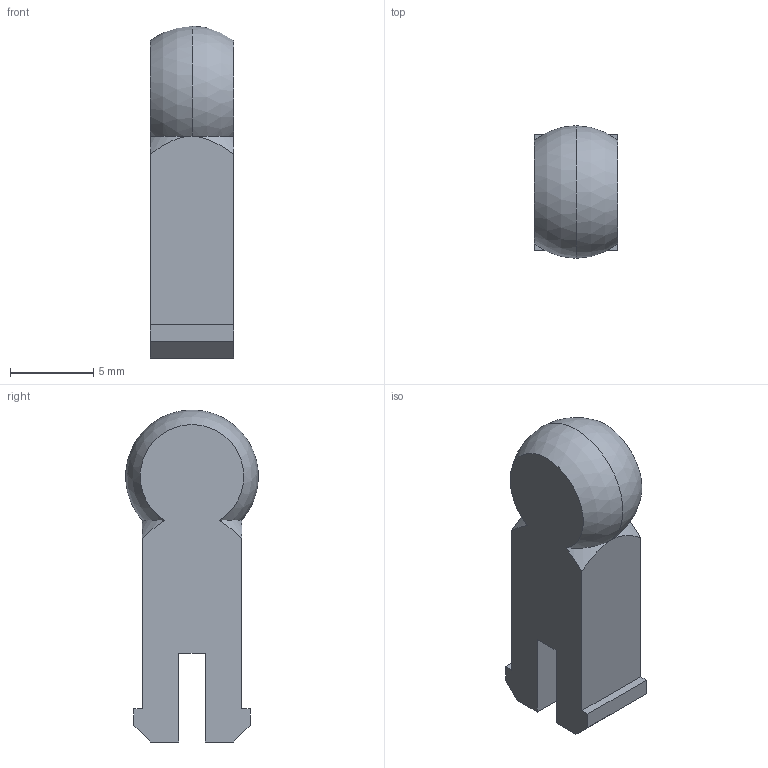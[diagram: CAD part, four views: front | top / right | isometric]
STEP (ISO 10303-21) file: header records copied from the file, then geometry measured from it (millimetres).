
FILE_DESCRIPTION (( 'STEP AP214' ), '1' );
FILE_NAME ('B1-pin-shoulder.step', '2023-08-03T13:47:58', ( '' ), ( '' ), 'SwSTEP 2.0', 'SolidWorks 2020', '' );
FILE_SCHEMA (( 'AUTOMOTIVE_DESIGN' ));
Length unit declared in the file: millimetre
Products named in the file (1): B1-pin-shoulder
Bounding box: 5 x 7.98 x 20 mm (x, y, z)
Volume: 560.1 mm3; surface area: 519.9 mm2
Topology: 1 solids, 1 shells, 21 faces, 54 edges, 35 vertices
Faces by surface type: plane 15, cone 4, sphere 2
Entity records: 702 total; most frequent: CARTESIAN_POINT 163, ORIENTED_EDGE 108, DIRECTION 98, EDGE_CURVE 54, LINE 38, VECTOR 38, VERTEX_POINT 35, AXIS2_PLACEMENT_3D 30
